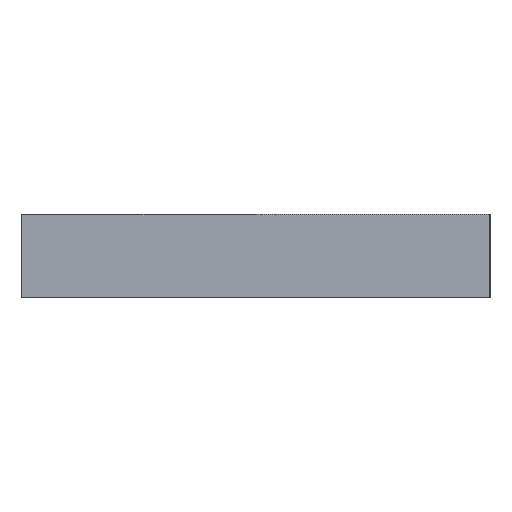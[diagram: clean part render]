
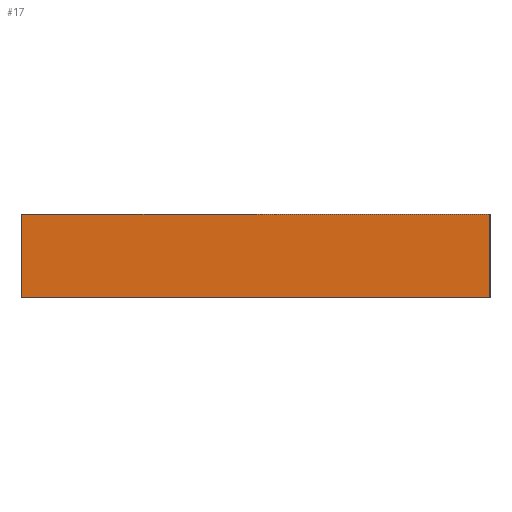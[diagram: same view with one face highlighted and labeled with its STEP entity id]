
A CAD part, left-side view. The second image highlights one B-rep face of the part: STEP entity #17.
In plain terms, the highlighted planar face has unit normal (-1, 0, 0).
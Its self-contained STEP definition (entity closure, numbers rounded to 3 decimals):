
#17 = ADVANCED_FACE('',(#18),#32,.F.);
#18 = FACE_BOUND('',#19,.F.);
#19 = EDGE_LOOP('',(#20,#55,#83,#111));
#20 = ORIENTED_EDGE('',*,*,#21,.F.);
#21 = EDGE_CURVE('',#22,#24,#26,.T.);
#22 = VERTEX_POINT('',#23);
#23 = CARTESIAN_POINT('',(-10.75,-22.02,0.515));
#24 = VERTEX_POINT('',#25);
#25 = CARTESIAN_POINT('',(-10.75,-22.02,1.765));
#26 = SURFACE_CURVE('',#27,(#31,#43),.PCURVE_S1.);
#27 = LINE('',#28,#29);
#28 = CARTESIAN_POINT('',(-10.75,-22.02,0.515));
#29 = VECTOR('',#30,1.);
#30 = DIRECTION('',(0.,0.,1.));
#31 = PCURVE('',#32,#37);
#32 = PLANE('',#33);
#33 = AXIS2_PLACEMENT_3D('',#34,#35,#36);
#34 = CARTESIAN_POINT('',(-10.75,-22.02,0.515));
#35 = DIRECTION('',(1.,0.,0.));
#36 = DIRECTION('',(0.,0.,1.));
#37 = DEFINITIONAL_REPRESENTATION('',(#38),#42);
#38 = LINE('',#39,#40);
#39 = CARTESIAN_POINT('',(0.,0.));
#40 = VECTOR('',#41,1.);
#41 = DIRECTION('',(1.,0.));
#42 = ( GEOMETRIC_REPRESENTATION_CONTEXT(2) 
PARAMETRIC_REPRESENTATION_CONTEXT() REPRESENTATION_CONTEXT('2D SPACE',''
  ) );
#43 = PCURVE('',#44,#49);
#44 = PLANE('',#45);
#45 = AXIS2_PLACEMENT_3D('',#46,#47,#48);
#46 = CARTESIAN_POINT('',(-10.75,-22.02,0.515));
#47 = DIRECTION('',(0.,1.,0.));
#48 = DIRECTION('',(0.,0.,1.));
#49 = DEFINITIONAL_REPRESENTATION('',(#50),#54);
#50 = LINE('',#51,#52);
#51 = CARTESIAN_POINT('',(0.,0.));
#52 = VECTOR('',#53,1.);
#53 = DIRECTION('',(1.,0.));
#54 = ( GEOMETRIC_REPRESENTATION_CONTEXT(2) 
PARAMETRIC_REPRESENTATION_CONTEXT() REPRESENTATION_CONTEXT('2D SPACE',''
  ) );
#55 = ORIENTED_EDGE('',*,*,#56,.T.);
#56 = EDGE_CURVE('',#22,#57,#59,.T.);
#57 = VERTEX_POINT('',#58);
#58 = CARTESIAN_POINT('',(-10.75,-15.02,0.515));
#59 = SURFACE_CURVE('',#60,(#64,#71),.PCURVE_S1.);
#60 = LINE('',#61,#62);
#61 = CARTESIAN_POINT('',(-10.75,-22.02,0.515));
#62 = VECTOR('',#63,1.);
#63 = DIRECTION('',(0.,1.,0.));
#64 = PCURVE('',#32,#65);
#65 = DEFINITIONAL_REPRESENTATION('',(#66),#70);
#66 = LINE('',#67,#68);
#67 = CARTESIAN_POINT('',(0.,0.));
#68 = VECTOR('',#69,1.);
#69 = DIRECTION('',(0.,-1.));
#70 = ( GEOMETRIC_REPRESENTATION_CONTEXT(2) 
PARAMETRIC_REPRESENTATION_CONTEXT() REPRESENTATION_CONTEXT('2D SPACE',''
  ) );
#71 = PCURVE('',#72,#77);
#72 = PLANE('',#73);
#73 = AXIS2_PLACEMENT_3D('',#74,#75,#76);
#74 = CARTESIAN_POINT('',(-10.75,-22.02,0.515));
#75 = DIRECTION('',(0.,0.,1.));
#76 = DIRECTION('',(1.,0.,0.));
#77 = DEFINITIONAL_REPRESENTATION('',(#78),#82);
#78 = LINE('',#79,#80);
#79 = CARTESIAN_POINT('',(0.,0.));
#80 = VECTOR('',#81,1.);
#81 = DIRECTION('',(0.,1.));
#82 = ( GEOMETRIC_REPRESENTATION_CONTEXT(2) 
PARAMETRIC_REPRESENTATION_CONTEXT() REPRESENTATION_CONTEXT('2D SPACE',''
  ) );
#83 = ORIENTED_EDGE('',*,*,#84,.T.);
#84 = EDGE_CURVE('',#57,#85,#87,.T.);
#85 = VERTEX_POINT('',#86);
#86 = CARTESIAN_POINT('',(-10.75,-15.02,1.765));
#87 = SURFACE_CURVE('',#88,(#92,#99),.PCURVE_S1.);
#88 = LINE('',#89,#90);
#89 = CARTESIAN_POINT('',(-10.75,-15.02,0.515));
#90 = VECTOR('',#91,1.);
#91 = DIRECTION('',(0.,0.,1.));
#92 = PCURVE('',#32,#93);
#93 = DEFINITIONAL_REPRESENTATION('',(#94),#98);
#94 = LINE('',#95,#96);
#95 = CARTESIAN_POINT('',(0.,-7.));
#96 = VECTOR('',#97,1.);
#97 = DIRECTION('',(1.,0.));
#98 = ( GEOMETRIC_REPRESENTATION_CONTEXT(2) 
PARAMETRIC_REPRESENTATION_CONTEXT() REPRESENTATION_CONTEXT('2D SPACE',''
  ) );
#99 = PCURVE('',#100,#105);
#100 = PLANE('',#101);
#101 = AXIS2_PLACEMENT_3D('',#102,#103,#104);
#102 = CARTESIAN_POINT('',(-10.75,-15.02,0.515));
#103 = DIRECTION('',(0.,1.,0.));
#104 = DIRECTION('',(0.,0.,1.));
#105 = DEFINITIONAL_REPRESENTATION('',(#106),#110);
#106 = LINE('',#107,#108);
#107 = CARTESIAN_POINT('',(0.,0.));
#108 = VECTOR('',#109,1.);
#109 = DIRECTION('',(1.,0.));
#110 = ( GEOMETRIC_REPRESENTATION_CONTEXT(2) 
PARAMETRIC_REPRESENTATION_CONTEXT() REPRESENTATION_CONTEXT('2D SPACE',''
  ) );
#111 = ORIENTED_EDGE('',*,*,#112,.F.);
#112 = EDGE_CURVE('',#24,#85,#113,.T.);
#113 = SURFACE_CURVE('',#114,(#118,#125),.PCURVE_S1.);
#114 = LINE('',#115,#116);
#115 = CARTESIAN_POINT('',(-10.75,-22.02,1.765));
#116 = VECTOR('',#117,1.);
#117 = DIRECTION('',(0.,1.,0.));
#118 = PCURVE('',#32,#119);
#119 = DEFINITIONAL_REPRESENTATION('',(#120),#124);
#120 = LINE('',#121,#122);
#121 = CARTESIAN_POINT('',(1.25,0.));
#122 = VECTOR('',#123,1.);
#123 = DIRECTION('',(0.,-1.));
#124 = ( GEOMETRIC_REPRESENTATION_CONTEXT(2) 
PARAMETRIC_REPRESENTATION_CONTEXT() REPRESENTATION_CONTEXT('2D SPACE',''
  ) );
#125 = PCURVE('',#126,#131);
#126 = PLANE('',#127);
#127 = AXIS2_PLACEMENT_3D('',#128,#129,#130);
#128 = CARTESIAN_POINT('',(-10.75,-22.02,1.765));
#129 = DIRECTION('',(0.,0.,1.));
#130 = DIRECTION('',(1.,0.,0.));
#131 = DEFINITIONAL_REPRESENTATION('',(#132),#136);
#132 = LINE('',#133,#134);
#133 = CARTESIAN_POINT('',(0.,0.));
#134 = VECTOR('',#135,1.);
#135 = DIRECTION('',(0.,1.));
#136 = ( GEOMETRIC_REPRESENTATION_CONTEXT(2) 
PARAMETRIC_REPRESENTATION_CONTEXT() REPRESENTATION_CONTEXT('2D SPACE',''
  ) );
